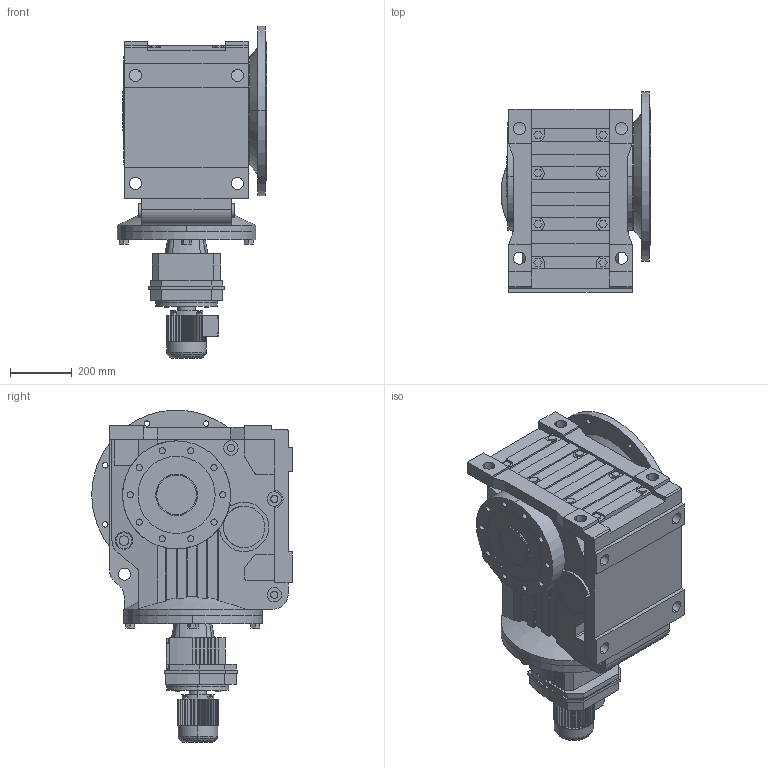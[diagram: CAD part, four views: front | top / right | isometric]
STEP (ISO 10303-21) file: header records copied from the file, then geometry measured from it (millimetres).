
FILE_DESCRIPTION(('Open CASCADE Model'),'2;1');
FILE_NAME('Open CASCADE Shape Model','2021-07-24T17:29:25',('Author'),( 'Open CASCADE'),'Open CASCADE STEP processor 6.3','Open CASCADE 6.3' ,'Unknown');
FILE_SCHEMA(('AUTOMOTIVE_DESIGN_CC2 { 1 2 10303 214 -1 1 5 4 }'));
Length unit declared in the file: millimetre
Products named in the file (6): 1_KAF127R77DR63-A; KA127‵157_127.step; 萇儂_200-DR63-179-234-132-105.step; R_127_77.step; す瑩諾陑粣K_127.step; 楊擘K_127.step
Assembly tree (5 placements, depth 2):
  1_KAF127R77DR63-A
    KA127‵157_127.step
    萇儂_200-DR63-179-234-132-105.step
    R_127_77.step
    す瑩諾陑粣K_127.step
    楊擘K_127.step
Bounding box: 486 x 650 x 1076 mm (x, y, z)
Volume: 124548129.3 mm3; surface area: 3852040.4 mm2
Topology: 5 solids, 5 shells, 1180 faces, 3108 edges, 2035 vertices
Faces by surface type: plane 788, cylinder 372, cone 16, torus 4
Entity records: 84183 total; most frequent: CARTESIAN_POINT 25044, DIRECTION 10145, ORIENTED_EDGE 6216, PCURVE 6216, DEFINITIONAL_REPRESENTATION 6216, LINE 5557, VECTOR 5557, EDGE_CURVE 3108
